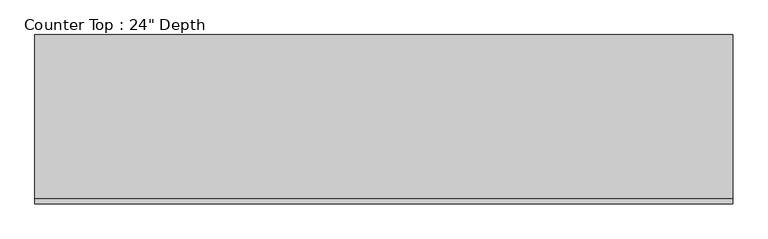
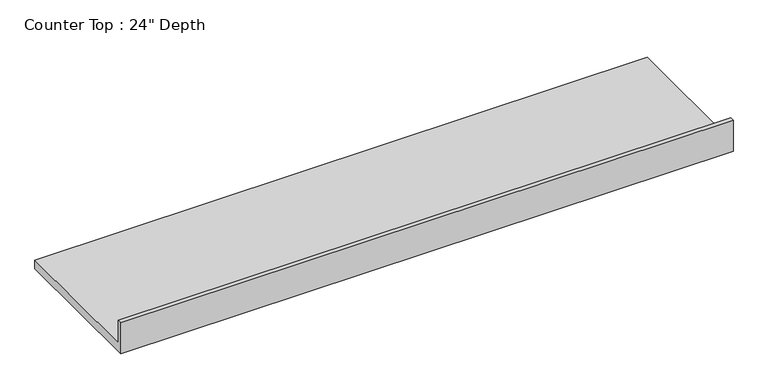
"""IFC4 building model written with IfcOpenShell, lengths in millimetres: furniture geometry."""

from ifc_helpers import new_model, si_unit, frame, origin, place, context, project, spatial, polyline, outline, extrude, source, transform, mapped, element, save


def furniture_963408ff(model_context):
    return source(origin(), model_context, "Body", "SweptSolid", [
        extrude(outline(polyline([(0.0, 1016.0), (19.05, 1016.0), (19.05, 914.4), (635.0, 914.4), (635.0, 876.3), (0.0, 876.3), (0.0, 1016.0)])), frame((-1200.4622951, 0.0, 0.0), z_axis=(1.0, 0.0, 0.0), x_axis=(0.0, 1.0, 0.0)), (0.0, 0.0, 1.0), 2616.2),
    ])


if __name__ == "__main__":
    model = new_model("IFC4")
    model_context = context("Model", 3, world=origin())
    ifc_project = project(units=[si_unit("LENGTHUNIT", "METRE", prefix="MILLI")], contexts=[model_context])
    site = spatial("IfcSite", under=ifc_project)
    building = spatial("IfcBuilding", under=site)
    placement = place(None, origin())
    furniture_shape = furniture_963408ff(model_context)
    element("IfcFurniture", 1, ObjectType="Counter Top : 24\" Depth", at=placement, inside=building, context=model_context, shape_type="MappedRepresentation", body=[
        mapped(furniture_shape, transform((0.0, 0.0, 0.0), x_axis=(1.0, 0.0, 0.0), y_axis=(0.0, 1.0, 0.0), z_axis=(0.0, 0.0, 1.0))),
    ])
    save(model, "model.ifc")
